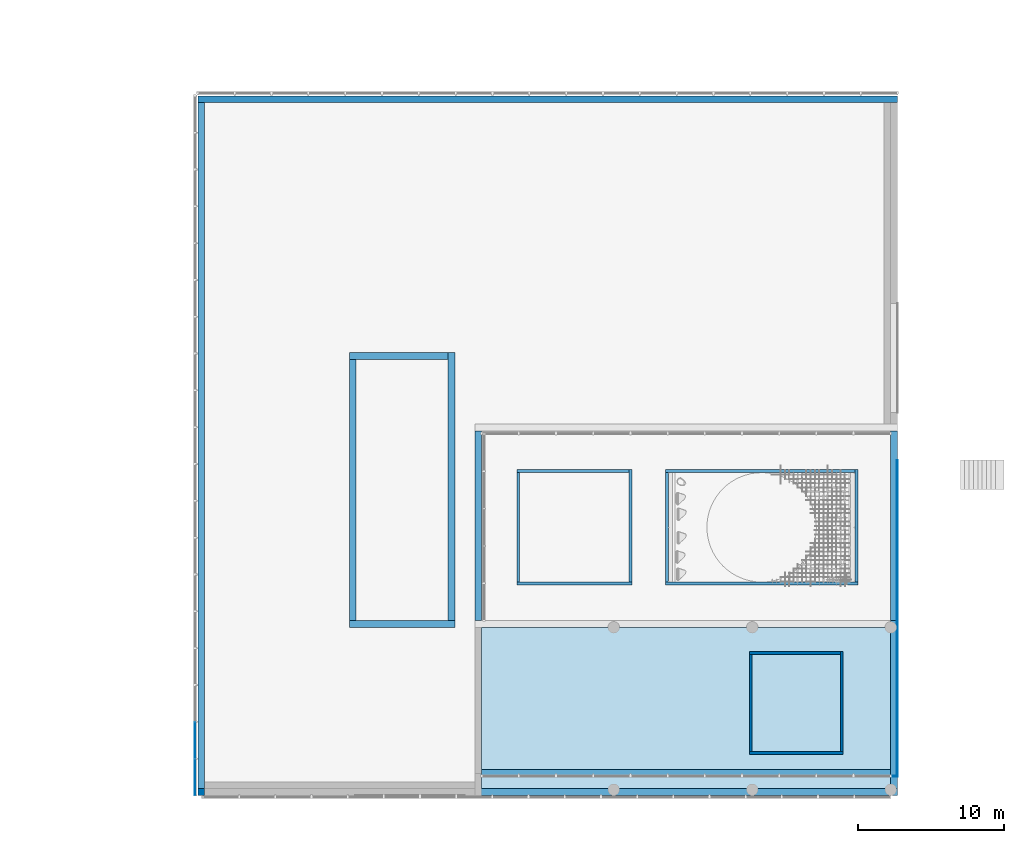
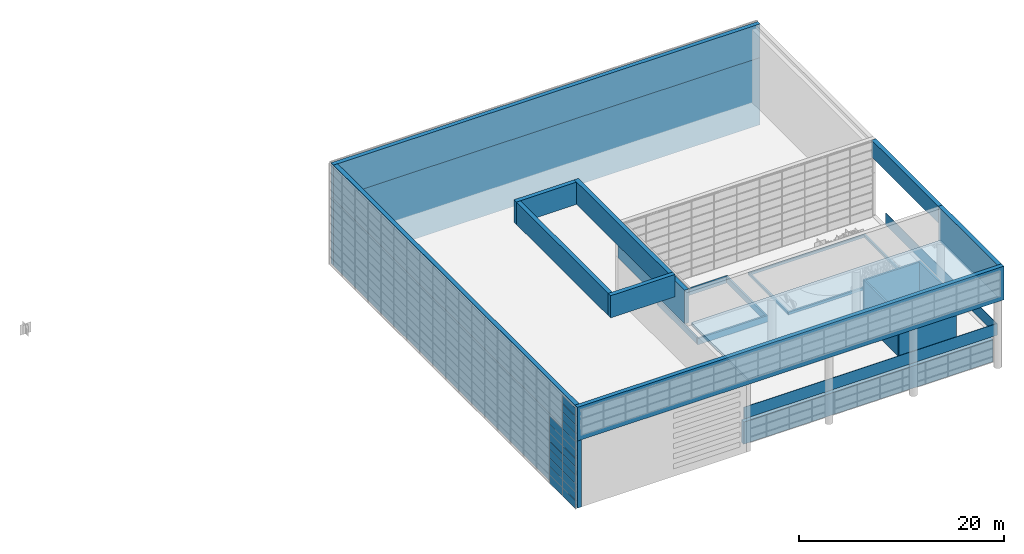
# One storey, part 2 of 105: 27 walls, 20 building element parts, 1 slab, 4 elements without a shape of their own.
"""IFC4 building model written with IfcOpenShell, lengths in millimetres."""

from ifc_helpers import new_model, entity, si_unit, converted_unit, derived_unit, direction, frame, origin_with_axes, place, context, subcontext, project, spatial, line, indexed_curve, outline, extrude, triangles, material, element, aggregate, save


model = new_model("IFC4")

# Units and contexts
model_context = context("Model", 3, precision=1e-05, world=origin_with_axes(), true_north=direction((0.0, 1.0)))
body_context = subcontext(model_context, "Body", "Model", "MODEL_VIEW")
ifc_project = project(units=[si_unit("LENGTHUNIT", "METRE", prefix="MILLI"), si_unit("AREAUNIT", "SQUARE_METRE"), si_unit("VOLUMEUNIT", "CUBIC_METRE"), converted_unit("PLANEANGLEUNIT", "DEGREE", entity("IfcLengthMeasure", 0.017453), si_unit("PLANEANGLEUNIT", "RADIAN"), dimensions=[0, 0, 0, 0, 0, 0, 0]), si_unit("SOLIDANGLEUNIT", "STERADIAN"), si_unit("MASSUNIT", "GRAM"), si_unit("TIMEUNIT", "SECOND"), si_unit("THERMODYNAMICTEMPERATUREUNIT", "DEGREE_CELSIUS"), si_unit("LUMINOUSINTENSITYUNIT", "LUMEN"), si_unit("POWERUNIT", "WATT"), derived_unit("THERMALTRANSMITTANCEUNIT", [(si_unit("POWERUNIT", "WATT"), 1), (si_unit("THERMODYNAMICTEMPERATUREUNIT", "KELVIN"), -1), (si_unit("AREAUNIT", "SQUARE_METRE"), -1)])], contexts=[model_context])

# Site, building, storey
site_placement = place(None, origin_with_axes())
site = spatial("IfcSite", under=ifc_project, at=site_placement, Name="Default Site", CompositionType="ELEMENT")
building_placement = place(site_placement, origin_with_axes())
building = spatial("IfcBuilding", under=site, at=building_placement, Name="Default Building", CompositionType="ELEMENT")
storey_placement = place(building_placement, origin_with_axes())
storey = spatial("IfcBuildingStorey", under=building, at=storey_placement, Name="OG - Story", CompositionType="ELEMENT", Elevation=0.0)

# Slab
ifc_material_1 = material(Name="Bauteil")
slab_placement = place(storey_placement, frame((51221.391327, -52119.262838, 8300.0), z_axis=(0.0, 0.0, 1.0), x_axis=(1.0, 0.0, 0.0)))
element("IfcSlab", 1, at=slab_placement, inside=storey, material=ifc_material_1, Name="Decke-003", PredefinedType="NOTDEFINED", context=body_context, shape_type="Tessellation", body=[
    triangles([(28060.0, 0.0, 0.0), (0.0, 0.0, 0.0), (0.0, 0.0, -299.999), (28060.0, 0.0, -299.999), (28060.0, 11060.0, 0.0), (0.0, 11060.0, 0.0), (0.0, 11060.0, -299.999), (28060.0, 11060.0, -299.999)], [[1, 2, 3], [1, 3, 4], [5, 6, 2], [5, 2, 1], [2, 6, 7], [2, 7, 3], [8, 4, 3], [8, 3, 7], [5, 1, 4], [5, 4, 8], [6, 5, 8], [6, 8, 7]], closed=False),
])

# Walls
wall_1_placement = place(storey_placement, frame((31751.391327, -52589.262838, 8000.0), z_axis=(0.0, 0.0, 1.0), x_axis=(1.0, 0.0, 0.0)))
element("IfcWall", 2, at=wall_1_placement, inside=storey, material=ifc_material_1, Name="Wand-001", PredefinedType="NOTDEFINED", context=body_context, shape_type="Tessellation", body=[
    triangles([(0.0, 470.0, 0.0), (48000.0, 470.0, 0.0), (48000.0, 0.0, 0.0), (0.0, 0.0, 0.0), (0.0, 470.0, 4000.0), (48000.0, 470.0, 4000.0), (48000.0, 0.0, 4000.0), (0.0, 0.0, 4000.0)], [[1, 2, 3], [1, 3, 4], [5, 6, 2], [5, 2, 1], [7, 3, 2], [7, 2, 6], [4, 3, 7], [4, 7, 8], [8, 5, 1], [8, 1, 4], [8, 7, 6], [8, 6, 5]], closed=False),
])
wall_2_placement = place(storey_placement, frame((79751.391327, -4589.262838, 8000.0), z_axis=(0.0, 0.0, 1.0), x_axis=(-1.0, 0.0, 0.0)))
element("IfcWall", 3, at=wall_2_placement, inside=storey, material=ifc_material_1, Name="Wand-003", PredefinedType="NOTDEFINED", context=body_context, shape_type="Tessellation", body=[
    triangles([(48000.0, 470.0, 0.0), (48000.0, 0.0, 0.0), (0.0, 0.0, 0.0), (0.0, 470.0, 0.0), (48000.0, 470.0, 4000.0), (48000.0, 0.0, 4000.0), (0.0, 0.0, 4000.0), (0.0, 470.0, 4000.0)], [[1, 2, 3], [1, 3, 4], [2, 1, 5], [2, 5, 6], [2, 6, 7], [2, 7, 3], [8, 4, 3], [8, 3, 7], [5, 1, 4], [5, 4, 8], [6, 5, 8], [6, 8, 7]], closed=False),
])
wall_3_placement = place(storey_placement, frame((31751.391327, -4589.262838, 8000.0), z_axis=(0.0, 0.0, 1.0), x_axis=(0.0, -1.0, 0.0)))
element("IfcWall", 4, at=wall_3_placement, inside=storey, material=ifc_material_1, Name="Wand-004", PredefinedType="NOTDEFINED", context=body_context, shape_type="Tessellation", body=[
    triangles([(47530.0, 470.0, 0.0), (47530.0, 0.0, 0.0), (470.0, 0.0, 0.0), (470.0, 470.0, 0.0), (47530.0, 470.0, 4000.0), (47530.0, 0.0, 4000.0), (470.0, 0.0, 4000.0), (470.0, 470.0, 4000.0)], [[1, 2, 3], [1, 3, 4], [2, 1, 5], [2, 5, 6], [2, 6, 7], [2, 7, 3], [8, 4, 3], [8, 3, 7], [5, 1, 4], [5, 4, 8], [6, 5, 8], [6, 8, 7]], closed=False),
])
wall_4_placement = place(storey_placement, frame((79751.391327, -52589.262838, 8000.0), z_axis=(0.0, 0.0, 1.0), x_axis=(0.0, 1.0, 0.0)))
element("IfcWall", 5, at=wall_4_placement, inside=storey, material=ifc_material_1, Name="Wand-005", PredefinedType="NOTDEFINED", context=body_context, shape_type="Tessellation", body=[
    triangles([(12000.0, 470.0, 4000.0), (470.0, 470.0, 4000.0), (470.0, 0.0, 4000.0), (12000.0, 0.0, 4000.0), (12000.0, 470.0, 0.0), (470.0, 470.0, 0.0), (470.0, 0.0, 0.0), (12000.0, 0.0, 0.0)], [[1, 2, 3], [1, 3, 4], [5, 6, 2], [5, 2, 1], [6, 7, 3], [6, 3, 2], [4, 3, 7], [4, 7, 8], [1, 4, 8], [1, 8, 5], [8, 7, 6], [8, 6, 5]], closed=False),
])
ifc_material_2 = material(Name="Normalglas")
wall_5_placement = place(storey_placement, frame((79701.391327, -51239.262838, 3000.0), z_axis=(0.0, 0.0, 1.0), x_axis=(0.0, 1.0, 0.0)))
element("IfcWall", 6, at=wall_5_placement, inside=storey, material=ifc_material_2, Name="Wand-024", PredefinedType="NOTDEFINED", context=body_context, shape_type="Tessellation", body=[
    triangles([(21650.0, -49.999, 1400.0), (21650.0, 0.0, 1400.0), (0.0, 0.0, 1400.0), (0.0, -49.999, 1400.0), (21650.0, -49.999, 0.0), (21650.0, 0.0, 0.0), (0.0, 0.0, 0.0), (0.0, -49.999, 0.0)], [[1, 2, 3], [1, 3, 4], [1, 5, 6], [1, 6, 2], [2, 6, 7], [2, 7, 3], [4, 3, 7], [4, 7, 8], [5, 1, 4], [5, 4, 8], [6, 5, 8], [6, 8, 7]], closed=False),
])
wall_6_placement = place(storey_placement, frame((50751.391327, -27589.262838, 8000.0), z_axis=(0.0, 0.0, 1.0), x_axis=(0.0, -1.0, 0.0)))
element("IfcWall", 7, at=wall_6_placement, inside=storey, material=ifc_material_1, Name="Wand-007", PredefinedType="NOTDEFINED", context=body_context, shape_type="Tessellation", body=[
    triangles([(13000.0, 470.0, 0.0), (13000.0, 0.0, 0.0), (0.0, 0.0, 0.0), (0.0, 470.0, 0.0), (13000.0, 470.0, 4000.0), (13000.0, 0.0, 4000.0), (0.0, 0.0, 4000.0), (0.0, 470.0, 4000.0)], [[1, 2, 3], [1, 3, 4], [2, 1, 5], [2, 5, 6], [2, 6, 7], [2, 7, 3], [8, 4, 3], [8, 3, 7], [5, 1, 4], [5, 4, 8], [6, 5, 8], [6, 8, 7]], closed=False),
])
wall_7_placement = place(storey_placement, frame((42143.246617, -41059.262838, 12000.0), z_axis=(0.0, 0.0, 1.0), x_axis=(1.0, 0.0, 0.0)))
element("IfcWall", 8, at=wall_7_placement, inside=storey, material=ifc_material_1, Name="Wand-008", PredefinedType="NOTDEFINED", context=body_context, shape_type="Tessellation", body=[
    triangles([(0.0, 470.0, 0.0), (0.0, 470.0, 2650.0), (7254.435, 470.0, 2650.0), (7254.435, 470.0, 0.0), (0.0, 0.0, 0.0), (0.0, 0.0, 2650.0), (7254.435, 0.0, 2650.0), (7254.435, 0.0, 0.0)], [[1, 2, 3], [1, 3, 4], [5, 6, 2], [5, 2, 1], [6, 7, 3], [6, 3, 2], [4, 3, 7], [4, 7, 8], [1, 4, 8], [1, 8, 5], [8, 7, 6], [8, 6, 5]], closed=False),
])
wall_8_placement = place(storey_placement, frame((49397.68144, -41059.262838, 12000.0), z_axis=(0.0, 0.0, 1.0), x_axis=(0.0, 1.0, 0.0)))
element("IfcWall", 9, at=wall_8_placement, inside=storey, material=ifc_material_1, Name="Wand-009", PredefinedType="NOTDEFINED", context=body_context, shape_type="Tessellation", body=[
    triangles([(18852.22, 470.0, 0.0), (18852.22, 470.0, 2650.0), (18852.22, 0.0, 2650.0), (18852.22, 0.0, 0.0), (470.0, 470.0, 0.0), (470.0, 470.0, 2650.0), (470.0, 0.0, 2650.0), (470.0, 0.0, 0.0)], [[1, 2, 3], [1, 3, 4], [5, 6, 2], [5, 2, 1], [6, 7, 3], [6, 3, 2], [4, 3, 7], [4, 7, 8], [5, 1, 4], [5, 4, 8], [8, 7, 6], [8, 6, 5]], closed=False),
])
wall_9_placement = place(storey_placement, frame((49397.68144, -22207.042951, 12000.0), z_axis=(0.0, 0.0, 1.0), x_axis=(-1.0, 0.0, 0.0)))
element("IfcWall", 10, at=wall_9_placement, inside=storey, material=ifc_material_1, Name="Wand-010", PredefinedType="NOTDEFINED", context=body_context, shape_type="Tessellation", body=[
    triangles([(7254.435, 0.0, 0.0), (7254.435, 0.0, 2650.0), (470.0, 0.0, 2650.0), (470.0, 0.0, 0.0), (7254.435, 470.0, 0.0), (7254.435, 470.0, 2650.0), (470.0, 470.0, 2650.0), (470.0, 470.0, 0.0)], [[1, 2, 3], [1, 3, 4], [5, 6, 2], [5, 2, 1], [6, 7, 3], [6, 3, 2], [4, 3, 7], [4, 7, 8], [8, 5, 1], [8, 1, 4], [8, 7, 6], [8, 6, 5]], closed=False),
])
wall_10_placement = place(storey_placement, frame((42143.246617, -22207.042951, 12000.0), z_axis=(0.0, 0.0, 1.0), x_axis=(0.0, -1.0, 0.0)))
element("IfcWall", 11, at=wall_10_placement, inside=storey, material=ifc_material_1, Name="Wand-011", PredefinedType="NOTDEFINED", context=body_context, shape_type="Tessellation", body=[
    triangles([(470.0, 0.0, 0.0), (470.0, 0.0, 2650.0), (470.0, 470.0, 2650.0), (470.0, 470.0, 0.0), (18382.22, 0.0, 0.0), (18382.22, 0.0, 2650.0), (18382.22, 470.0, 2650.0), (18382.22, 470.0, 0.0)], [[1, 2, 3], [1, 3, 4], [5, 6, 2], [5, 2, 1], [6, 7, 3], [6, 3, 2], [4, 3, 7], [4, 7, 8], [4, 8, 5], [4, 5, 1], [8, 7, 6], [8, 6, 5]], closed=False),
])
wall_11_placement = place(storey_placement, frame((79751.391327, -4589.262838, 0.0), z_axis=(0.0, 0.0, 1.0), x_axis=(-1.0, 0.0, 0.0)))
element("IfcWall", 12, at=wall_11_placement, inside=storey, material=ifc_material_1, Name="Wand-003", PredefinedType="NOTDEFINED", context=body_context, shape_type="Tessellation", body=[
    triangles([(48000.0, 470.0, 0.0), (48000.0, 0.0, 0.0), (0.0, 0.0, 0.0), (0.0, 470.0, 0.0), (48000.0, 470.0, 8000.0), (48000.0, 0.0, 8000.0), (0.0, 0.0, 8000.0), (0.0, 470.0, 8000.0)], [[1, 2, 3], [1, 3, 4], [2, 1, 5], [2, 5, 6], [2, 6, 7], [2, 7, 3], [8, 4, 3], [8, 3, 7], [5, 1, 4], [5, 4, 8], [6, 5, 8], [6, 8, 7]], closed=False),
])
wall_12_placement = place(storey_placement, frame((31751.391327, -4589.262838, 0.0), z_axis=(0.0, 0.0, 1.0), x_axis=(0.0, -1.0, 0.0)))
element("IfcWall", 13, at=wall_12_placement, inside=storey, material=ifc_material_1, Name="Wand-004", PredefinedType="NOTDEFINED", context=body_context, shape_type="Tessellation", body=[
    triangles([(48000.0, 470.0, 0.0), (48000.0, 0.0, 0.0), (470.0, 0.0, 0.0), (470.0, 470.0, 0.0), (48000.0, 470.0, 8000.0), (48000.0, 0.0, 8000.0), (470.0, 0.0, 8000.0), (470.0, 470.0, 8000.0)], [[1, 2, 3], [1, 3, 4], [2, 1, 5], [2, 5, 6], [2, 6, 7], [2, 7, 3], [8, 4, 3], [8, 3, 7], [5, 1, 4], [5, 4, 8], [6, 5, 8], [6, 8, 7]], closed=False),
])
wall_13_placement = place(storey_placement, frame((79751.391327, -40589.262838, 10000.0), z_axis=(0.0, 0.0, 1.0), x_axis=(0.0, 1.0, 0.0)))
element("IfcWall", 14, at=wall_13_placement, inside=storey, material=ifc_material_1, Name="Wand-019", PredefinedType="NOTDEFINED", context=body_context, shape_type="Tessellation", body=[
    triangles([(0.0, 0.0, 0.0), (13000.0, 0.0, 0.0), (13000.0, 0.0, 2000.0), (0.0, 0.0, 2000.0), (0.0, 470.0, 0.0), (13000.0, 470.0, 0.0), (13000.0, 470.0, 2000.0), (0.0, 470.0, 2000.0)], [[1, 2, 3], [1, 3, 4], [5, 6, 2], [5, 2, 1], [6, 7, 3], [6, 3, 2], [4, 3, 7], [4, 7, 8], [1, 4, 8], [1, 8, 5], [8, 7, 6], [8, 6, 5]], closed=False),
])
wall_14_placement = place(storey_placement, frame((79751.391327, -51289.262838, 0.0), z_axis=(0.0, 0.0, 1.0), x_axis=(-1.0, 0.0, 0.0)))
element("IfcWall", 15, at=wall_14_placement, inside=storey, material=ifc_material_1, Name="Wand-020", PredefinedType="NOTDEFINED", context=body_context, shape_type="Tessellation", body=[
    triangles([(28530.0, -469.999, 0.0), (28530.0, -469.999, 2650.0), (470.0, -469.999, 2650.0), (470.0, -469.999, 0.0), (28530.0, 0.0, 0.0), (28530.0, 0.0, 2650.0), (470.0, 0.0, 2650.0), (470.0, 0.0, 0.0)], [[1, 2, 3], [1, 3, 4], [5, 6, 2], [5, 2, 1], [6, 7, 3], [6, 3, 2], [4, 3, 7], [4, 7, 8], [8, 5, 1], [8, 1, 4], [8, 7, 6], [8, 6, 5]], closed=False),
])
wall_15_placement = place(storey_placement, frame((51221.391327, -51239.262838, 3000.0), z_axis=(0.0, 0.0, 1.0), x_axis=(1.0, 0.0, 0.0)))
element("IfcWall", 16, at=wall_15_placement, inside=storey, material=ifc_material_2, Name="Wand-023", PredefinedType="NOTDEFINED", context=body_context, shape_type="Tessellation", body=[
    triangles([(28530.0, 0.0, 1400.0), (0.0, 0.0, 1400.0), (0.0, -49.999, 1400.0), (28530.0, -49.999, 1400.0), (28530.0, 0.0, 0.0), (0.0, 0.0, 0.0), (0.0, -49.999, 0.0), (28530.0, -49.999, 0.0)], [[1, 2, 3], [1, 3, 4], [5, 6, 2], [5, 2, 1], [3, 2, 6], [3, 6, 7], [4, 3, 7], [4, 7, 8], [4, 8, 5], [4, 5, 1], [8, 7, 6], [8, 6, 5]], closed=False),
])
wall_16_placement = place(storey_placement, frame((69781.391327, -49572.947966, 3000.0), z_axis=(0.0, 0.0, 1.0), x_axis=(1.0, 0.0, 0.0)))
element("IfcWall", 17, at=wall_16_placement, inside=storey, material=ifc_material_1, Name="Wand-026", PredefinedType="NOTDEFINED", context=body_context, shape_type="Tessellation", body=[
    triangles([(6238.047, -199.999, 5000.0), (6238.047, 0.0, 5000.0), (-199.999, 0.0, 5000.0), (-199.999, -199.999, 5000.0), (6238.047, -199.999, 0.0), (6238.047, 0.0, 0.0), (-199.999, 0.0, 0.0), (-199.999, -199.999, 0.0)], [[1, 2, 3], [1, 3, 4], [2, 1, 5], [2, 5, 6], [2, 6, 7], [2, 7, 3], [8, 4, 3], [8, 3, 7], [5, 1, 4], [5, 4, 8], [6, 5, 8], [6, 8, 7]], closed=False),
])
wall_17_placement = place(storey_placement, frame((75819.438321, -49572.947966, 3000.0), z_axis=(0.0, 0.0, 1.0), x_axis=(0.0, 1.0, 0.0)))
element("IfcWall", 18, at=wall_17_placement, inside=storey, material=ifc_material_1, Name="Wand-027", PredefinedType="NOTDEFINED", context=body_context, shape_type="Tessellation", body=[
    triangles([(6851.948, -199.999, 5000.0), (6851.948, 0.0, 5000.0), (0.0, 0.0, 5000.0), (0.0, -199.999, 5000.0), (6851.948, -199.999, 0.0), (6851.948, 0.0, 0.0), (0.0, 0.0, 0.0), (0.0, -199.999, 0.0)], [[1, 2, 3], [1, 3, 4], [2, 1, 5], [2, 5, 6], [2, 6, 7], [2, 7, 3], [8, 4, 3], [8, 3, 7], [5, 1, 4], [5, 4, 8], [6, 5, 8], [6, 8, 7]], closed=False),
])
wall_18_placement = place(storey_placement, frame((75819.438321, -42920.999636, 3000.0), z_axis=(0.0, 0.0, 1.0), x_axis=(-1.0, 0.0, 0.0)))
element("IfcWall", 19, at=wall_18_placement, inside=storey, material=ifc_material_1, Name="Wand-028", PredefinedType="NOTDEFINED", context=body_context, shape_type="Tessellation", body=[
    triangles([(6238.047, -199.999, 5000.0), (6238.047, 0.0, 5000.0), (0.0, 0.0, 5000.0), (0.0, -199.999, 5000.0), (6238.047, -199.999, 0.0), (6238.047, 0.0, 0.0), (0.0, 0.0, 0.0), (0.0, -199.999, 0.0)], [[1, 2, 3], [1, 3, 4], [2, 1, 5], [2, 5, 6], [2, 6, 7], [2, 7, 3], [8, 4, 3], [8, 3, 7], [5, 1, 4], [5, 4, 8], [6, 5, 8], [6, 8, 7]], closed=False),
])
wall_19_placement = place(storey_placement, frame((69781.391327, -42920.999636, 3000.0), z_axis=(0.0, 0.0, 1.0), x_axis=(0.0, -1.0, 0.0)))
element("IfcWall", 20, at=wall_19_placement, inside=storey, material=ifc_material_1, Name="Wand-029", PredefinedType="NOTDEFINED", context=body_context, shape_type="Tessellation", body=[
    triangles([(6651.948, -199.999, 5000.0), (6651.948, 0.0, 5000.0), (0.0, 0.0, 5000.0), (0.0, -199.999, 5000.0), (6651.948, -199.999, 0.0), (6651.948, 0.0, 0.0), (0.0, 0.0, 0.0), (0.0, -199.999, 0.0)], [[1, 2, 3], [1, 3, 4], [2, 1, 5], [2, 5, 6], [2, 6, 7], [2, 7, 3], [8, 4, 3], [8, 3, 7], [5, 1, 4], [5, 4, 8], [6, 5, 8], [6, 8, 7]], closed=False),
])
ifc_material_3 = material(Name="Default")
wall_20_placement = place(storey_placement, origin_with_axes())
element("IfcWall", 21, at=wall_20_placement, inside=storey, material=ifc_material_3, Name="IfcWall", context=body_context, shape_type="SweptSolid", body=[
    extrude(outline(indexed_curve([(53628.229, -30439.262), (61328.229, -30439.262), (61328.229, -30239.262), (53628.229, -30239.262)], segments=[line(1, 2), line(2, 3), line(3, 4), line(4, 1)])), frame((0.0, 0.0, 3000.0), z_axis=(0.0, 0.0, 1.0), x_axis=(1.0, 0.0, 0.0)), (0.0, 0.0, 1.0), 750.0),
])
wall_21_placement = place(storey_placement, origin_with_axes())
element("IfcWall", 22, at=wall_21_placement, inside=storey, material=ifc_material_3, Name="IfcWall", context=body_context, shape_type="SweptSolid", body=[
    extrude(outline(indexed_curve([(53628.229, -37939.262), (53828.229, -37939.262), (53828.229, -30439.262), (53628.229, -30439.262)], segments=[line(1, 2), line(2, 3), line(3, 4), line(4, 1)])), frame((0.0, 0.0, 3000.0), z_axis=(0.0, 0.0, 1.0), x_axis=(1.0, 0.0, 0.0)), (0.0, 0.0, 1.0), 750.0),
])
wall_22_placement = place(storey_placement, origin_with_axes())
element("IfcWall", 23, at=wall_22_placement, inside=storey, material=ifc_material_3, Name="IfcWall", context=body_context, shape_type="SweptSolid", body=[
    extrude(outline(indexed_curve([(53628.229, -38139.262), (61528.229, -38139.262), (61528.229, -37939.262), (53628.229, -37939.262)], segments=[line(1, 2), line(2, 3), line(3, 4), line(4, 1)])), frame((0.0, 0.0, 3000.0), z_axis=(0.0, 0.0, 1.0), x_axis=(1.0, 0.0, 0.0)), (0.0, 0.0, 1.0), 750.0),
])
wall_23_placement = place(storey_placement, origin_with_axes())
element("IfcWall", 24, at=wall_23_placement, inside=storey, material=ifc_material_3, Name="IfcWall", context=body_context, shape_type="SweptSolid", body=[
    extrude(outline(indexed_curve([(61328.229, -37939.262), (61528.229, -37939.262), (61528.229, -30239.262), (61328.229, -30239.262)], segments=[line(1, 2), line(2, 3), line(3, 4), line(4, 1)])), frame((0.0, 0.0, 3000.0), z_axis=(0.0, 0.0, 1.0), x_axis=(1.0, 0.0, 0.0)), (0.0, 0.0, 1.0), 750.0),
])
wall_24_placement = place(storey_placement, origin_with_axes())
element("IfcWall", 25, at=wall_24_placement, inside=storey, material=ifc_material_3, Name="IfcWall", context=body_context, shape_type="SweptSolid", body=[
    extrude(outline(indexed_curve([(63828.229, -30439.262), (76819.438, -30439.262), (76819.438, -30239.262), (63828.229, -30239.262)], segments=[line(1, 2), line(2, 3), line(3, 4), line(4, 1)])), frame((0.0, 0.0, 3000.0), z_axis=(0.0, 0.0, 1.0), x_axis=(1.0, 0.0, 0.0)), (0.0, 0.0, 1.0), 295.0),
])
wall_25_placement = place(storey_placement, origin_with_axes())
element("IfcWall", 26, at=wall_25_placement, inside=storey, material=ifc_material_3, Name="IfcWall", context=body_context, shape_type="SweptSolid", body=[
    extrude(outline(indexed_curve([(76819.438, -37939.262), (77019.438, -37939.262), (77019.438, -30239.262), (76819.438, -30239.262)], segments=[line(1, 2), line(2, 3), line(3, 4), line(4, 1)])), frame((0.0, 0.0, 3000.0), z_axis=(0.0, 0.0, 1.0), x_axis=(1.0, 0.0, 0.0)), (0.0, 0.0, 1.0), 295.0),
])
wall_26_placement = place(storey_placement, origin_with_axes())
element("IfcWall", 27, at=wall_26_placement, inside=storey, material=ifc_material_3, Name="IfcWall", context=body_context, shape_type="SweptSolid", body=[
    extrude(outline(indexed_curve([(63828.229, -38139.199), (77019.438, -38139.199), (77019.438, -37939.262), (63828.229, -37939.262)], segments=[line(1, 2), line(2, 3), line(3, 4), line(4, 1)])), frame((0.0, 0.0, 3000.0), z_axis=(0.0, 0.0, 1.0), x_axis=(1.0, 0.0, 0.0)), (0.0, 0.0, 1.0), 295.0),
])
wall_27_placement = place(storey_placement, origin_with_axes())
element("IfcWall", 28, at=wall_27_placement, inside=storey, material=ifc_material_3, Name="IfcWall", context=body_context, shape_type="SweptSolid", body=[
    extrude(outline(indexed_curve([(63828.229, -37939.262), (64028.229, -37939.262), (64028.229, -30439.262), (63828.229, -30439.262)], segments=[line(1, 2), line(2, 3), line(3, 4), line(4, 1)])), frame((0.0, 0.0, 3000.0), z_axis=(0.0, 0.0, 1.0), x_axis=(1.0, 0.0, 0.0)), (0.0, 0.0, 1.0), 295.0),
])

# Curtain wall, building element parts
curtain_wall_1_placement = place(storey_placement, origin_with_axes())
curtain_wall_1 = element("IfcCurtainWall", 29, at=curtain_wall_1_placement, inside=storey, Name="Fassade-003", PredefinedType="NOTDEFINED")
building_element_part_1_placement = place(curtain_wall_1_placement, frame((31551.391327, -51326.104944, 0.0), z_axis=(0.0, 0.0, 1.0), x_axis=(1.0, 0.0, 0.0)))
building_element_part_1 = element("IfcBuildingElementPart", 30, at=building_element_part_1_placement, material=ifc_material_2, Name="Normalglas", PredefinedType="NOTDEFINED", context=body_context, shape_type="Tessellation", body=[
    triangles([(15.0, 1253.158, 995.0), (-14.999, 1253.158, 995.0), (-14.999, -1258.157, 995.0), (15.0, -1258.157, 995.0), (15.0, 1253.158, 5.0), (-14.999, 1253.158, 5.0), (-14.999, -1258.157, 5.0), (15.0, -1258.157, 5.0)], [[1, 2, 3], [1, 3, 4], [5, 6, 2], [5, 2, 1], [2, 6, 7], [2, 7, 3], [4, 3, 7], [4, 7, 8], [1, 4, 8], [1, 8, 5], [8, 7, 6], [8, 6, 5]], closed=False),
])
building_element_part_2_placement = place(curtain_wall_1_placement, frame((31551.391327, -51326.104944, 0.0), z_axis=(0.0, 0.0, 1.0), x_axis=(1.0, 0.0, 0.0)))
building_element_part_2 = element("IfcBuildingElementPart", 31, at=building_element_part_2_placement, material=ifc_material_2, Name="Normalglas", PredefinedType="NOTDEFINED", context=body_context, shape_type="Tessellation", body=[
    triangles([(15.0, 3779.474, 995.0), (-14.999, 3779.474, 995.0), (-14.999, 1273.158, 995.0), (15.0, 1273.158, 995.0), (15.0, 3779.474, 5.0), (-14.999, 3779.474, 5.0), (-14.999, 1273.158, 5.0), (15.0, 1273.158, 5.0)], [[1, 2, 3], [1, 3, 4], [5, 6, 2], [5, 2, 1], [2, 6, 7], [2, 7, 3], [4, 3, 7], [4, 7, 8], [1, 4, 8], [1, 8, 5], [8, 7, 6], [8, 6, 5]], closed=False),
])
building_element_part_3_placement = place(curtain_wall_1_placement, frame((31551.391327, -51326.104944, 0.0), z_axis=(0.0, 0.0, 1.0), x_axis=(1.0, 0.0, 0.0)))
building_element_part_3 = element("IfcBuildingElementPart", 32, at=building_element_part_3_placement, material=ifc_material_2, Name="Normalglas", PredefinedType="NOTDEFINED", context=body_context, shape_type="Tessellation", body=[
    triangles([(15.0, 1253.158, 1995.0), (-14.999, 1253.158, 1995.0), (-14.999, -1258.157, 1995.0), (15.0, -1258.157, 1995.0), (15.0, 1253.158, 1005.0), (-14.999, 1253.158, 1005.0), (-14.999, -1258.157, 1005.0), (15.0, -1258.157, 1005.0)], [[1, 2, 3], [1, 3, 4], [5, 6, 2], [5, 2, 1], [2, 6, 7], [2, 7, 3], [4, 3, 7], [4, 7, 8], [1, 4, 8], [1, 8, 5], [8, 7, 6], [8, 6, 5]], closed=False),
])
building_element_part_4_placement = place(curtain_wall_1_placement, frame((31551.391327, -51326.104944, 0.0), z_axis=(0.0, 0.0, 1.0), x_axis=(1.0, 0.0, 0.0)))
building_element_part_4 = element("IfcBuildingElementPart", 33, at=building_element_part_4_placement, material=ifc_material_2, Name="Normalglas", PredefinedType="NOTDEFINED", context=body_context, shape_type="Tessellation", body=[
    triangles([(15.0, 3779.474, 1995.0), (-14.999, 3779.474, 1995.0), (-14.999, 1273.158, 1995.0), (15.0, 1273.158, 1995.0), (15.0, 3779.474, 1005.0), (-14.999, 3779.474, 1005.0), (-14.999, 1273.158, 1005.0), (15.0, 1273.158, 1005.0)], [[1, 2, 3], [1, 3, 4], [5, 6, 2], [5, 2, 1], [2, 6, 7], [2, 7, 3], [4, 3, 7], [4, 7, 8], [1, 4, 8], [1, 8, 5], [8, 7, 6], [8, 6, 5]], closed=False),
])
building_element_part_5_placement = place(curtain_wall_1_placement, frame((31551.391327, -51326.104944, 0.0), z_axis=(0.0, 0.0, 1.0), x_axis=(1.0, 0.0, 0.0)))
building_element_part_5 = element("IfcBuildingElementPart", 34, at=building_element_part_5_placement, material=ifc_material_2, Name="Normalglas", PredefinedType="NOTDEFINED", context=body_context, shape_type="Tessellation", body=[
    triangles([(15.0, 1253.158, 2995.0), (-14.999, 1253.158, 2995.0), (-14.999, -1258.157, 2995.0), (15.0, -1258.157, 2995.0), (15.0, 1253.158, 2005.0), (-14.999, 1253.158, 2005.0), (-14.999, -1258.157, 2005.0), (15.0, -1258.157, 2005.0)], [[1, 2, 3], [1, 3, 4], [5, 6, 2], [5, 2, 1], [2, 6, 7], [2, 7, 3], [4, 3, 7], [4, 7, 8], [1, 4, 8], [1, 8, 5], [8, 7, 6], [8, 6, 5]], closed=False),
])
building_element_part_6_placement = place(curtain_wall_1_placement, frame((31551.391327, -51326.104944, 0.0), z_axis=(0.0, 0.0, 1.0), x_axis=(1.0, 0.0, 0.0)))
building_element_part_6 = element("IfcBuildingElementPart", 35, at=building_element_part_6_placement, material=ifc_material_2, Name="Normalglas", PredefinedType="NOTDEFINED", context=body_context, shape_type="Tessellation", body=[
    triangles([(15.0, 3779.474, 2995.0), (-14.999, 3779.474, 2995.0), (-14.999, 1273.158, 2995.0), (15.0, 1273.158, 2995.0), (15.0, 3779.474, 2005.0), (-14.999, 3779.474, 2005.0), (-14.999, 1273.158, 2005.0), (15.0, 1273.158, 2005.0)], [[1, 2, 3], [1, 3, 4], [5, 6, 2], [5, 2, 1], [2, 6, 7], [2, 7, 3], [4, 3, 7], [4, 7, 8], [1, 4, 8], [1, 8, 5], [8, 7, 6], [8, 6, 5]], closed=False),
])
aggregate(curtain_wall_1, [building_element_part_1, building_element_part_2, building_element_part_3, building_element_part_4, building_element_part_5, building_element_part_6])

curtain_wall_2_placement = place(storey_placement, origin_with_axes())
curtain_wall_2 = element("IfcCurtainWall", 36, at=curtain_wall_2_placement, inside=storey, Name="Fassade-003", PredefinedType="NOTDEFINED")
building_element_part_7_placement = place(curtain_wall_2_placement, frame((31551.391327, -51326.104944, 3000.0), z_axis=(0.0, 0.0, 1.0), x_axis=(1.0, 0.0, 0.0)))
building_element_part_7 = element("IfcBuildingElementPart", 37, at=building_element_part_7_placement, material=ifc_material_2, Name="Normalglas", PredefinedType="NOTDEFINED", context=body_context, shape_type="Tessellation", body=[
    triangles([(15.0, 1253.158, 995.0), (-14.999, 1253.158, 995.0), (-14.999, -1258.157, 995.0), (15.0, -1258.157, 995.0), (15.0, 1253.158, 5.0), (-14.999, 1253.158, 5.0), (-14.999, -1258.157, 5.0), (15.0, -1258.157, 5.0)], [[1, 2, 3], [1, 3, 4], [5, 6, 2], [5, 2, 1], [2, 6, 7], [2, 7, 3], [4, 3, 7], [4, 7, 8], [1, 4, 8], [1, 8, 5], [8, 7, 6], [8, 6, 5]], closed=False),
])
building_element_part_8_placement = place(curtain_wall_2_placement, frame((31551.391327, -51326.104944, 3000.0), z_axis=(0.0, 0.0, 1.0), x_axis=(1.0, 0.0, 0.0)))
building_element_part_8 = element("IfcBuildingElementPart", 38, at=building_element_part_8_placement, material=ifc_material_2, Name="Normalglas", PredefinedType="NOTDEFINED", context=body_context, shape_type="Tessellation", body=[
    triangles([(15.0, 3779.474, 995.0), (-14.999, 3779.474, 995.0), (-14.999, 1273.158, 995.0), (15.0, 1273.158, 995.0), (15.0, 3779.474, 5.0), (-14.999, 3779.474, 5.0), (-14.999, 1273.158, 5.0), (15.0, 1273.158, 5.0)], [[1, 2, 3], [1, 3, 4], [5, 6, 2], [5, 2, 1], [2, 6, 7], [2, 7, 3], [4, 3, 7], [4, 7, 8], [1, 4, 8], [1, 8, 5], [8, 7, 6], [8, 6, 5]], closed=False),
])
building_element_part_9_placement = place(curtain_wall_2_placement, frame((31551.391327, -51326.104944, 3000.0), z_axis=(0.0, 0.0, 1.0), x_axis=(1.0, 0.0, 0.0)))
building_element_part_9 = element("IfcBuildingElementPart", 39, at=building_element_part_9_placement, material=ifc_material_2, Name="Normalglas", PredefinedType="NOTDEFINED", context=body_context, shape_type="Tessellation", body=[
    triangles([(15.0, 1253.158, 1995.0), (-14.999, 1253.158, 1995.0), (-14.999, -1258.157, 1995.0), (15.0, -1258.157, 1995.0), (15.0, 1253.158, 1005.0), (-14.999, 1253.158, 1005.0), (-14.999, -1258.157, 1005.0), (15.0, -1258.157, 1005.0)], [[1, 2, 3], [1, 3, 4], [5, 6, 2], [5, 2, 1], [2, 6, 7], [2, 7, 3], [4, 3, 7], [4, 7, 8], [1, 4, 8], [1, 8, 5], [8, 7, 6], [8, 6, 5]], closed=False),
])
building_element_part_10_placement = place(curtain_wall_2_placement, frame((31551.391327, -51326.104944, 3000.0), z_axis=(0.0, 0.0, 1.0), x_axis=(1.0, 0.0, 0.0)))
building_element_part_10 = element("IfcBuildingElementPart", 40, at=building_element_part_10_placement, material=ifc_material_2, Name="Normalglas", PredefinedType="NOTDEFINED", context=body_context, shape_type="Tessellation", body=[
    triangles([(15.0, 3779.474, 1995.0), (-14.999, 3779.474, 1995.0), (-14.999, 1273.158, 1995.0), (15.0, 1273.158, 1995.0), (15.0, 3779.474, 1005.0), (-14.999, 3779.474, 1005.0), (-14.999, 1273.158, 1005.0), (15.0, 1273.158, 1005.0)], [[1, 2, 3], [1, 3, 4], [5, 6, 2], [5, 2, 1], [2, 6, 7], [2, 7, 3], [4, 3, 7], [4, 7, 8], [1, 4, 8], [1, 8, 5], [8, 7, 6], [8, 6, 5]], closed=False),
])
building_element_part_11_placement = place(curtain_wall_2_placement, frame((31551.391327, -51326.104944, 3000.0), z_axis=(0.0, 0.0, 1.0), x_axis=(1.0, 0.0, 0.0)))
building_element_part_11 = element("IfcBuildingElementPart", 41, at=building_element_part_11_placement, material=ifc_material_2, Name="Normalglas", PredefinedType="NOTDEFINED", context=body_context, shape_type="Tessellation", body=[
    triangles([(15.0, 1253.158, 2995.0), (-14.999, 1253.158, 2995.0), (-14.999, -1258.157, 2995.0), (15.0, -1258.157, 2995.0), (15.0, 1253.158, 2005.0), (-14.999, 1253.158, 2005.0), (-14.999, -1258.157, 2005.0), (15.0, -1258.157, 2005.0)], [[1, 2, 3], [1, 3, 4], [5, 6, 2], [5, 2, 1], [2, 6, 7], [2, 7, 3], [4, 3, 7], [4, 7, 8], [1, 4, 8], [1, 8, 5], [8, 7, 6], [8, 6, 5]], closed=False),
])
building_element_part_12_placement = place(curtain_wall_2_placement, frame((31551.391327, -51326.104944, 3000.0), z_axis=(0.0, 0.0, 1.0), x_axis=(1.0, 0.0, 0.0)))
building_element_part_12 = element("IfcBuildingElementPart", 42, at=building_element_part_12_placement, material=ifc_material_2, Name="Normalglas", PredefinedType="NOTDEFINED", context=body_context, shape_type="Tessellation", body=[
    triangles([(15.0, 3779.474, 2995.0), (-14.999, 3779.474, 2995.0), (-14.999, 1273.158, 2995.0), (15.0, 1273.158, 2995.0), (15.0, 3779.474, 2005.0), (-14.999, 3779.474, 2005.0), (-14.999, 1273.158, 2005.0), (15.0, 1273.158, 2005.0)], [[1, 2, 3], [1, 3, 4], [5, 6, 2], [5, 2, 1], [2, 6, 7], [2, 7, 3], [4, 3, 7], [4, 7, 8], [1, 4, 8], [1, 8, 5], [8, 7, 6], [8, 6, 5]], closed=False),
])
aggregate(curtain_wall_2, [building_element_part_7, building_element_part_8, building_element_part_9, building_element_part_10, building_element_part_11, building_element_part_12])

curtain_wall_3_placement = place(storey_placement, origin_with_axes())
curtain_wall_3 = element("IfcCurtainWall", 43, at=curtain_wall_3_placement, inside=storey, Name="Fassade-003", PredefinedType="NOTDEFINED")
building_element_part_13_placement = place(curtain_wall_3_placement, frame((31551.391327, -51326.104944, 6000.0), z_axis=(0.0, 0.0, 1.0), x_axis=(1.0, 0.0, 0.0)))
building_element_part_13 = element("IfcBuildingElementPart", 44, at=building_element_part_13_placement, material=ifc_material_2, Name="Normalglas", PredefinedType="NOTDEFINED", context=body_context, shape_type="Tessellation", body=[
    triangles([(15.0, 1253.158, 995.0), (-14.999, 1253.158, 995.0), (-14.999, -1258.157, 995.0), (15.0, -1258.157, 995.0), (15.0, 1253.158, 5.0), (-14.999, 1253.158, 5.0), (-14.999, -1258.157, 5.0), (15.0, -1258.157, 5.0)], [[1, 2, 3], [1, 3, 4], [5, 6, 2], [5, 2, 1], [2, 6, 7], [2, 7, 3], [4, 3, 7], [4, 7, 8], [1, 4, 8], [1, 8, 5], [8, 7, 6], [8, 6, 5]], closed=False),
])
building_element_part_14_placement = place(curtain_wall_3_placement, frame((31551.391327, -51326.104944, 6000.0), z_axis=(0.0, 0.0, 1.0), x_axis=(1.0, 0.0, 0.0)))
building_element_part_14 = element("IfcBuildingElementPart", 45, at=building_element_part_14_placement, material=ifc_material_2, Name="Normalglas", PredefinedType="NOTDEFINED", context=body_context, shape_type="Tessellation", body=[
    triangles([(15.0, 3779.474, 995.0), (-14.999, 3779.474, 995.0), (-14.999, 1273.158, 995.0), (15.0, 1273.158, 995.0), (15.0, 3779.474, 5.0), (-14.999, 3779.474, 5.0), (-14.999, 1273.158, 5.0), (15.0, 1273.158, 5.0)], [[1, 2, 3], [1, 3, 4], [5, 6, 2], [5, 2, 1], [2, 6, 7], [2, 7, 3], [4, 3, 7], [4, 7, 8], [1, 4, 8], [1, 8, 5], [8, 7, 6], [8, 6, 5]], closed=False),
])
building_element_part_15_placement = place(curtain_wall_3_placement, frame((31551.391327, -51326.104944, 6000.0), z_axis=(0.0, 0.0, 1.0), x_axis=(1.0, 0.0, 0.0)))
building_element_part_15 = element("IfcBuildingElementPart", 46, at=building_element_part_15_placement, material=ifc_material_2, Name="Normalglas", PredefinedType="NOTDEFINED", context=body_context, shape_type="Tessellation", body=[
    triangles([(15.0, 1253.158, 1995.0), (-14.999, 1253.158, 1995.0), (-14.999, -1258.157, 1995.0), (15.0, -1258.157, 1995.0), (15.0, 1253.158, 1005.0), (-14.999, 1253.158, 1005.0), (-14.999, -1258.157, 1005.0), (15.0, -1258.157, 1005.0)], [[1, 2, 3], [1, 3, 4], [5, 6, 2], [5, 2, 1], [2, 6, 7], [2, 7, 3], [4, 3, 7], [4, 7, 8], [1, 4, 8], [1, 8, 5], [8, 7, 6], [8, 6, 5]], closed=False),
])
building_element_part_16_placement = place(curtain_wall_3_placement, frame((31551.391327, -51326.104944, 6000.0), z_axis=(0.0, 0.0, 1.0), x_axis=(1.0, 0.0, 0.0)))
building_element_part_16 = element("IfcBuildingElementPart", 47, at=building_element_part_16_placement, material=ifc_material_2, Name="Normalglas", PredefinedType="NOTDEFINED", context=body_context, shape_type="Tessellation", body=[
    triangles([(15.0, 3779.474, 1995.0), (-14.999, 3779.474, 1995.0), (-14.999, 1273.158, 1995.0), (15.0, 1273.158, 1995.0), (15.0, 3779.474, 1005.0), (-14.999, 3779.474, 1005.0), (-14.999, 1273.158, 1005.0), (15.0, 1273.158, 1005.0)], [[1, 2, 3], [1, 3, 4], [5, 6, 2], [5, 2, 1], [2, 6, 7], [2, 7, 3], [4, 3, 7], [4, 7, 8], [1, 4, 8], [1, 8, 5], [8, 7, 6], [8, 6, 5]], closed=False),
])
building_element_part_17_placement = place(curtain_wall_3_placement, frame((31551.391327, -51326.104944, 6000.0), z_axis=(0.0, 0.0, 1.0), x_axis=(1.0, 0.0, 0.0)))
building_element_part_17 = element("IfcBuildingElementPart", 48, at=building_element_part_17_placement, material=ifc_material_2, Name="Normalglas", PredefinedType="NOTDEFINED", context=body_context, shape_type="Tessellation", body=[
    triangles([(15.0, 1253.158, 2995.0), (-14.999, 1253.158, 2995.0), (-14.999, -1258.157, 2995.0), (15.0, -1258.157, 2995.0), (15.0, 1253.158, 2005.0), (-14.999, 1253.158, 2005.0), (-14.999, -1258.157, 2005.0), (15.0, -1258.157, 2005.0)], [[1, 2, 3], [1, 3, 4], [5, 6, 2], [5, 2, 1], [2, 6, 7], [2, 7, 3], [4, 3, 7], [4, 7, 8], [1, 4, 8], [1, 8, 5], [8, 7, 6], [8, 6, 5]], closed=False),
])
aggregate(curtain_wall_3, [building_element_part_13, building_element_part_14, building_element_part_15, building_element_part_16, building_element_part_17])

curtain_wall_4_placement = place(storey_placement, origin_with_axes())
curtain_wall_4 = element("IfcCurtainWall", 49, at=curtain_wall_4_placement, inside=storey, Name="Fassade-003", PredefinedType="NOTDEFINED")
building_element_part_18_placement = place(curtain_wall_4_placement, frame((31551.391327, -51326.104944, 9000.0), z_axis=(0.0, 0.0, 1.0), x_axis=(1.0, 0.0, 0.0)))
building_element_part_18 = element("IfcBuildingElementPart", 50, at=building_element_part_18_placement, material=ifc_material_2, Name="Normalglas", PredefinedType="NOTDEFINED", context=body_context, shape_type="Tessellation", body=[
    triangles([(15.0, 1253.158, 995.0), (-14.999, 1253.158, 995.0), (-14.999, -1258.157, 995.0), (15.0, -1258.157, 995.0), (15.0, 1253.158, 5.0), (-14.999, 1253.158, 5.0), (-14.999, -1258.157, 5.0), (15.0, -1258.157, 5.0)], [[1, 2, 3], [1, 3, 4], [5, 6, 2], [5, 2, 1], [2, 6, 7], [2, 7, 3], [4, 3, 7], [4, 7, 8], [1, 4, 8], [1, 8, 5], [8, 7, 6], [8, 6, 5]], closed=False),
])
building_element_part_19_placement = place(curtain_wall_4_placement, frame((31551.391327, -51326.104944, 9000.0), z_axis=(0.0, 0.0, 1.0), x_axis=(1.0, 0.0, 0.0)))
building_element_part_19 = element("IfcBuildingElementPart", 51, at=building_element_part_19_placement, material=ifc_material_2, Name="Normalglas", PredefinedType="NOTDEFINED", context=body_context, shape_type="Tessellation", body=[
    triangles([(15.0, 1253.158, 1995.0), (-14.999, 1253.158, 1995.0), (-14.999, -1258.157, 1995.0), (15.0, -1258.157, 1995.0), (15.0, 1253.158, 1005.0), (-14.999, 1253.158, 1005.0), (-14.999, -1258.157, 1005.0), (15.0, -1258.157, 1005.0)], [[1, 2, 3], [1, 3, 4], [5, 6, 2], [5, 2, 1], [2, 6, 7], [2, 7, 3], [4, 3, 7], [4, 7, 8], [1, 4, 8], [1, 8, 5], [8, 7, 6], [8, 6, 5]], closed=False),
])
building_element_part_20_placement = place(curtain_wall_4_placement, frame((31551.391327, -51326.104944, 9000.0), z_axis=(0.0, 0.0, 1.0), x_axis=(1.0, 0.0, 0.0)))
building_element_part_20 = element("IfcBuildingElementPart", 52, at=building_element_part_20_placement, material=ifc_material_2, Name="Normalglas", PredefinedType="NOTDEFINED", context=body_context, shape_type="Tessellation", body=[
    triangles([(15.0, 1253.158, 2995.0), (-14.999, 1253.158, 2995.0), (-14.999, -1258.157, 2995.0), (15.0, -1258.157, 2995.0), (15.0, 1253.158, 2005.0), (-14.999, 1253.158, 2005.0), (-14.999, -1258.157, 2005.0), (15.0, -1258.157, 2005.0)], [[1, 2, 3], [1, 3, 4], [5, 6, 2], [5, 2, 1], [2, 6, 7], [2, 7, 3], [4, 3, 7], [4, 7, 8], [1, 4, 8], [1, 8, 5], [8, 7, 6], [8, 6, 5]], closed=False),
])
aggregate(curtain_wall_4, [building_element_part_18, building_element_part_19, building_element_part_20])

save(model, "model.ifc")
